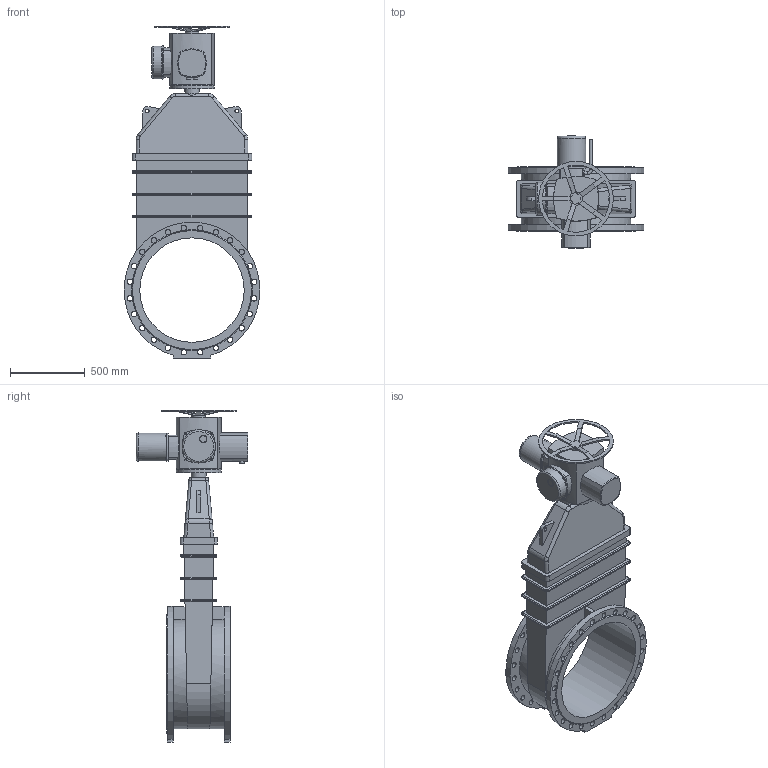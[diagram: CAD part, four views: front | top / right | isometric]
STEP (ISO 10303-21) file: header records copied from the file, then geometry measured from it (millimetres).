
FILE_DESCRIPTION(('STEP AP203'), '1');
FILE_NAME('青溻桄赅 47GVA DN700 PN10_PN16+MT903.Z90', '', ('UNSPECIFIED'), ('UNSPECIFIED'), 'ASCON STEP Converter 1.6', 'ASCON Math Kernel', '');
FILE_SCHEMA(('CONFIG_CONTROL_DESIGN'));
Length unit declared in the file: millimetre
Bounding box: 907.25 x 750 x 2224 mm (x, y, z)
Volume: 219837155.9 mm3; surface area: 6654361.9 mm2
Topology: 2 solids, 2 shells, 416 faces, 1168 edges, 745 vertices
Faces by surface type: cylinder 202, plane 150, bspline 34, torus 19, cone 11
Full cylindrical faces by diameter (mm): 12 x8, 13.835 x8, 18 x8, 20 x2, 25 x2, 29.22 x1, 30 x1, 37 x48, 45 x1, 50 x2, 60 x1, 90 x1, 100 x1, 130 x1, 190 x1, 200 x2, 220 x1, 300 x2, 500 x1, 700 x1
Entity records: 23803 total; most frequent: CARTESIAN_POINT 10110, DIRECTION 2124, ORIENTED_EDGE 2066, EDGE_CURVE 1033, AXIS2_PLACEMENT_3D 862, VERTEX_POINT 732, EDGE_LOOP 655, CIRCLE 479
